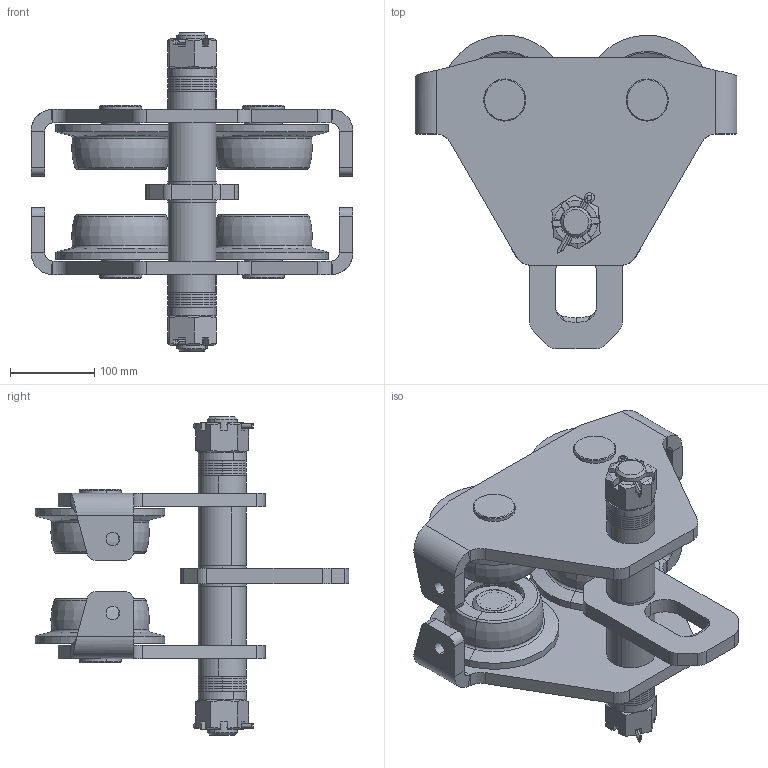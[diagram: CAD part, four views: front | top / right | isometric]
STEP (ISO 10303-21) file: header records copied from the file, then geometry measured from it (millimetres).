
FILE_DESCRIPTION (( 'STEP AP214' ), '1' );
FILE_NAME ('OZ5PBT-TM.STEP', '2023-03-13T15:59:19', ( '' ), ( '' ), 'SwSTEP 2.0', 'SolidWorks 2021', '' );
FILE_SCHEMA (( 'AUTOMOTIVE_DESIGN' ));
Length unit declared in the file: millimetre
Products named in the file (1): OZ5PBT-TM
Bounding box: 382 x 371.93 x 378 mm (x, y, z)
Volume: 5359049.6 mm3; surface area: 914757 mm2
Topology: 40 solids, 40 shells, 739 faces, 1667 edges, 1036 vertices
Faces by surface type: cylinder 305, plane 230, cone 104, torus 88, bspline 12
Entity records: 30711 total; most frequent: CARTESIAN_POINT 5217, DIRECTION 3765, ORIENTED_EDGE 3334, EDGE_CURVE 1667, AXIS2_PLACEMENT_3D 1568, VERTEX_POINT 1036, EDGE_LOOP 855, CIRCLE 840
